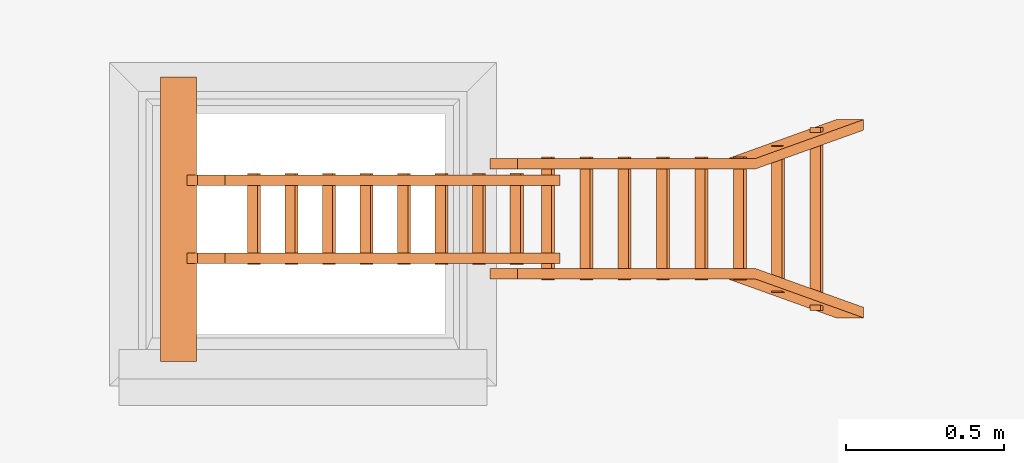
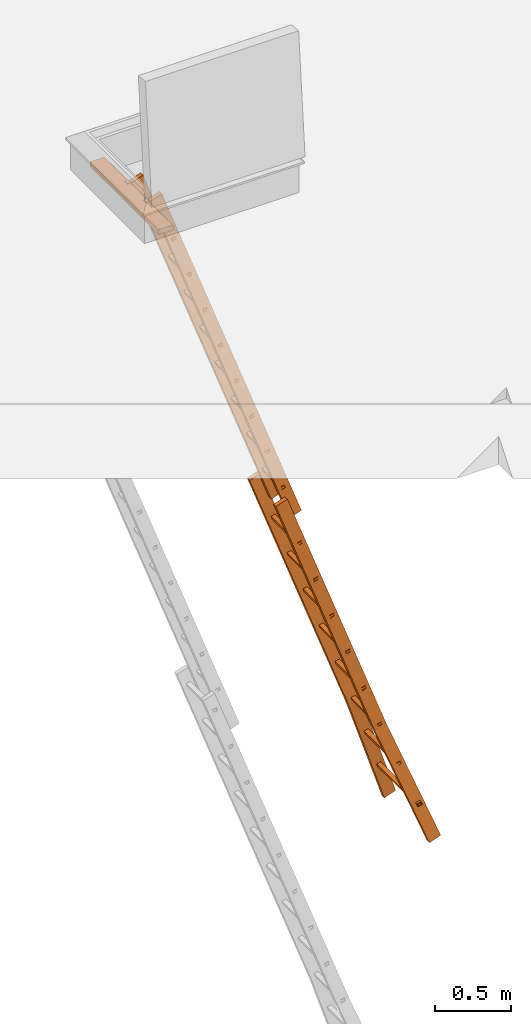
# One storey, part 12 of 28: 1 proxy, 2 openings.
"""IFC2X3 building model written with IfcOpenShell, lengths in millimetres."""

from ifc_helpers import new_model, entity, si_unit, converted_unit, derived_unit, direction, frame, frame_2d, origin, origin_2d_with_axis, place, context, subcontext, project, spatial, polyline, circle_curve, parameter, trimmed, segment, composite_curve, rectangle, outline, extrude, source, transform, mapped, type_object, type_shapes, element, save


model = new_model("IFC2X3")

# Units and contexts
model_context = context("Model", 3, precision=0.01, world=origin(), true_north=direction((6.12303176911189e-17, 1.0)))
body_context = subcontext(model_context, "Body", "Model", "MODEL_VIEW")
ifc_project = project(units=[si_unit("LENGTHUNIT", "METRE", prefix="MILLI"), si_unit("AREAUNIT", "SQUARE_METRE"), si_unit("VOLUMEUNIT", "CUBIC_METRE"), converted_unit("PLANEANGLEUNIT", "DEGREE", entity("IfcRatioMeasure", 0.0174532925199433), si_unit("PLANEANGLEUNIT", "RADIAN"), dimensions=[0, 0, 0, 0, 0, 0, 0]), si_unit("MASSUNIT", "GRAM", prefix="KILO"), derived_unit("MASSDENSITYUNIT", [(si_unit("MASSUNIT", "GRAM", prefix="KILO"), 1), (si_unit("LENGTHUNIT", "METRE"), -3)]), si_unit("TIMEUNIT", "SECOND"), si_unit("FREQUENCYUNIT", "HERTZ"), si_unit("THERMODYNAMICTEMPERATUREUNIT", "DEGREE_CELSIUS"), derived_unit("THERMALTRANSMITTANCEUNIT", [(si_unit("MASSUNIT", "GRAM", prefix="KILO"), 1), (si_unit("THERMODYNAMICTEMPERATUREUNIT", "KELVIN"), -1), (si_unit("TIMEUNIT", "SECOND"), -3)]), derived_unit("VOLUMETRICFLOWRATEUNIT", [(si_unit("LENGTHUNIT", "METRE"), 3), (si_unit("TIMEUNIT", "SECOND"), -1)]), si_unit("ELECTRICCURRENTUNIT", "AMPERE"), si_unit("ELECTRICVOLTAGEUNIT", "VOLT"), si_unit("POWERUNIT", "WATT"), si_unit("FORCEUNIT", "NEWTON", prefix="KILO"), si_unit("ILLUMINANCEUNIT", "LUX"), si_unit("LUMINOUSFLUXUNIT", "LUMEN"), si_unit("LUMINOUSINTENSITYUNIT", "CANDELA"), derived_unit("USERDEFINED", [(si_unit("MASSUNIT", "GRAM", prefix="KILO"), -1), (si_unit("LENGTHUNIT", "METRE"), -2), (si_unit("TIMEUNIT", "SECOND"), 3), (si_unit("LUMINOUSFLUXUNIT", "LUMEN"), 1)]), derived_unit("LINEARVELOCITYUNIT", [(si_unit("LENGTHUNIT", "METRE"), 1), (si_unit("TIMEUNIT", "SECOND"), -1)]), si_unit("PRESSUREUNIT", "PASCAL"), derived_unit("USERDEFINED", [(si_unit("LENGTHUNIT", "METRE"), -2), (si_unit("MASSUNIT", "GRAM", prefix="KILO"), 1), (si_unit("TIMEUNIT", "SECOND"), -2)])], contexts=[model_context])

# Site, building, storey
site_placement = place(None, origin())
site = spatial("IfcSite", under=ifc_project, at=site_placement, Name="Default", CompositionType="ELEMENT")
building_placement = place(site_placement, origin())
building = spatial("IfcBuilding", under=site, at=building_placement, CompositionType="ELEMENT")
storey_placement = place(building_placement, frame((0.0, 0.0, 4000.0)))
storey = spatial("IfcBuildingStorey", under=building, at=storey_placement, Name="Level 2", CompositionType="ELEMENT", Elevation=4000.0)

# Proxy, openings
building_element_proxy_type = type_object("IfcBuildingElementProxyType", Name="9_Topaccess_Trap_2delige1", PredefinedType="NOTDEFINED")
shared_shape = source(origin(), body_context, "Body", "SweptSolid", [
    extrude(outline(composite_curve([segment(polyline([(-20.0, -72.7589570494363), (20.0, -72.7589570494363)]), True, "CONTINUOUS"), segment(polyline([(20.0, -72.7589570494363), (20.0, 31.9980683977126)]), True, "CONTINUOUS"), segment(trimmed(circle_curve(frame_2d((10.2609571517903, 30.9957536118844), x_axis=(0.939692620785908, -0.342020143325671)), 9.79048469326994), [parameter(25.876031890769)], [parameter(105.876031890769)], True, "PARAMETER"), True, "CONTINUOUS"), segment(polyline([(10.9650368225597, 40.760888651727), (-10.9650368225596, 40.760888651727)]), True, "CONTINUOUS"), segment(trimmed(circle_curve(frame_2d((-10.2609571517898, 30.9957536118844), x_axis=(0.939692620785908, -0.342020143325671)), 9.79048469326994), [parameter(114.123968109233)], [parameter(194.123968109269)], True, "PARAMETER"), True, "CONTINUOUS"), segment(polyline([(-20.0, 31.9980683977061), (-20.0, -72.7589570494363)]), True, "CONTINUOUS")], self_intersect=False)), frame((-484.291584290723, -2.37763803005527, 9.64187826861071), z_axis=(1.0, 0.0, 0.0), x_axis=(0.0, 0.939692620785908, 0.34202014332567)), (0.0, 0.0, 1.0), 900.0),
    extrude(outline(composite_curve([segment(polyline([(-21.0941155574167, -85.4663572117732), (-18.0941155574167, -85.4663572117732)]), True, "CONTINUOUS"), segment(polyline([(-18.0941155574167, -85.4663572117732), (-18.0941155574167, 34.533772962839)]), True, "CONTINUOUS"), segment(trimmed(circle_curve(frame_2d((0.281515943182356, 34.5337729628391), x_axis=(0.0, 1.0)), 18.3756315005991), [parameter(284.219953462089)], [parameter(90.0000000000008)], True, "PARAMETER"), False, "CONTINUOUS"), segment(polyline([(18.0941155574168, 39.047654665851), (18.0941155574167, 11.7050015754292)]), True, "CONTINUOUS"), segment(polyline([(18.0941155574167, 11.7050015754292), (21.0941155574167, 11.7050015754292)]), True, "CONTINUOUS"), segment(polyline([(21.0941155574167, 11.7050015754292), (21.0941155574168, 39.4075106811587)]), True, "CONTINUOUS"), segment(trimmed(circle_curve(frame_2d((0.281515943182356, 34.5337729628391), x_axis=(0.0, 1.0)), 21.3756315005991), [parameter(283.179609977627)], [parameter(89.9999999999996)], True, "PARAMETER"), True, "CONTINUOUS"), segment(polyline([(-21.0941155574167, 34.5337729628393), (-21.0941155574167, -85.4663572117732)]), True, "CONTINUOUS")], self_intersect=False)), frame((72.0, -40.2373925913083, 36.9030783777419), z_axis=(1.0, 0.0, 0.0), x_axis=(0.0, 0.0, -1.0)), (0.0, 0.0, 1.0), 33.0),
    extrude(outline(composite_curve([segment(polyline([(-34.5337729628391, -21.0941155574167), (85.4663572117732, -21.0941155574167)]), True, "CONTINUOUS"), segment(polyline([(85.4663572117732, -21.0941155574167), (85.4663572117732, -18.0941155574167)]), True, "CONTINUOUS"), segment(polyline([(85.4663572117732, -18.0941155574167), (-34.5337729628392, -18.0941155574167)]), True, "CONTINUOUS"), segment(trimmed(circle_curve(frame_2d((-34.5337729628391, 0.281515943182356), x_axis=(-1.0, 0.0)), 18.3756315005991), [parameter(284.219953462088)], [parameter(90.0)], True, "PARAMETER"), False, "CONTINUOUS"), segment(polyline([(-39.047654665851, 18.0941155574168), (-11.7050015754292, 18.0941155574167)]), True, "CONTINUOUS"), segment(polyline([(-11.7050015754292, 18.0941155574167), (-11.7050015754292, 21.0941155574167)]), True, "CONTINUOUS"), segment(polyline([(-11.7050015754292, 21.0941155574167), (-39.407510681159, 21.0941155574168)]), True, "CONTINUOUS"), segment(trimmed(circle_curve(frame_2d((-34.5337729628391, 0.281515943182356), x_axis=(-1.0, 0.0)), 21.3756315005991), [parameter(283.179609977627)], [parameter(89.9999999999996)], True, "PARAMETER"), True, "CONTINUOUS")], self_intersect=False)), frame((-175.0, -40.2373925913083, 36.9030783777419), z_axis=(1.0, 0.0, 0.0), x_axis=(0.0, -1.0, 0.0)), (0.0, 0.0, 1.0), 33.0000000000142),
    extrude(rectangle(XDim=33.0000000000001, YDim=3099.99999999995, at=frame_2d((-3.30000000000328, 283.551511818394), x_axis=(1.0, 0.0))), frame((85.2, -1266.44848818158, 58.0), z_axis=(0.0, 0.0, 1.0), x_axis=(-1.0, 0.0, 0.0)), (0.0, 0.0, 1.0), 92.0),
    extrude(rectangle(XDim=3099.99999999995, YDim=33.0000000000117, at=frame_2d((-283.551511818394, 3.30000000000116), x_axis=(1.0, 0.0))), frame((-155.19999999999, -1266.44848818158, 58.0), z_axis=(0.0, 0.0, 1.0), x_axis=(0.0, 1.0, 0.0)), (0.0, 0.0, 1.0), 92.0),
    extrude(outline(polyline([(-11.5216143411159, -16.5000000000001), (13.8405381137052, -16.5000000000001), (13.8405381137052, 16.5), (-16.1594618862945, 16.5000000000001), (-11.5216143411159, -16.5000000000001)]), holes=[polyline([(8.84053811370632, -11.5000000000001), (-7.1751806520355, -11.5000000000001), (-10.4076198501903, 11.5000000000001), (8.84053811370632, 11.5), (8.84053811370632, -11.5000000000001)])]), frame((-227.077291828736, -3293.01909964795, 39.0843884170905), z_axis=(1.0, 0.0, 0.0), x_axis=(0.0, -1.0, 0.0)), (0.0, 0.0, 1.0), 389.077291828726),
    extrude(outline(polyline([(-11.5216143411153, -16.5000000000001), (13.8405381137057, -16.5000000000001), (13.8405381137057, 16.5), (-16.159461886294, 16.5000000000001), (-11.5216143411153, -16.5000000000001)]), holes=[polyline([(8.84053811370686, -11.5000000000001), (-7.17518065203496, -11.5000000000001), (-10.4076198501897, 11.5000000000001), (8.84053811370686, 11.5), (8.84053811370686, -11.5000000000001)])]), frame((-227.077291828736, -3648.01909964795, 39.0843884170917), z_axis=(1.0, 0.0, 0.0), x_axis=(0.0, -1.0, 0.0)), (0.0, 0.0, 1.0), 389.077291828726),
    extrude(outline(polyline([(-11.5216143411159, -16.5000000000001), (13.8405381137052, -16.5000000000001), (13.8405381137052, 16.5), (-16.1594618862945, 16.5000000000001), (-11.5216143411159, -16.5000000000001)]), holes=[polyline([(8.84053811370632, -11.5000000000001), (-7.1751806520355, -11.5000000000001), (-10.4076198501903, 11.5000000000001), (8.84053811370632, 11.5), (8.84053811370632, -11.5000000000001)])]), frame((-227.077291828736, -4003.01909964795, 39.0843884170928), z_axis=(1.0, 0.0, 0.0), x_axis=(0.0, -1.0, 0.0)), (0.0, 0.0, 1.0), 389.077291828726),
    extrude(outline(polyline([(-11.5216143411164, -16.5000000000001), (13.8405381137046, -16.5000000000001), (13.8405381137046, 16.5), (-16.159461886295, 16.5000000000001), (-11.5216143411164, -16.5000000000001)]), holes=[polyline([(8.84053811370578, -11.5000000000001), (-7.17518065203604, -11.5000000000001), (-10.4076198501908, 11.5000000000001), (8.84053811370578, 11.5), (8.84053811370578, -11.5000000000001)])]), frame((-227.077291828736, -4358.01909964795, 39.0843884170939), z_axis=(1.0, 0.0, 0.0), x_axis=(0.0, -1.0, 0.0)), (0.0, 0.0, 1.0), 389.077291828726),
    extrude(outline(polyline([(-11.5216143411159, -16.5000000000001), (13.8405381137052, -16.5000000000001), (13.8405381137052, 16.5), (-16.1594618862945, 16.5000000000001), (-11.5216143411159, -16.5000000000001)]), holes=[polyline([(8.84053811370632, -11.5000000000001), (-7.1751806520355, -11.5000000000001), (-10.4076198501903, 11.5000000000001), (8.84053811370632, 11.5), (8.84053811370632, -11.5000000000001)])]), frame((-227.077291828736, -4713.01909964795, 39.0843884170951), z_axis=(1.0, 0.0, 0.0), x_axis=(0.0, -1.0, 0.0)), (0.0, 0.0, 1.0), 389.077291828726),
    extrude(outline(polyline([(-11.5216143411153, -16.5000000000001), (13.8405381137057, -16.5000000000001), (13.8405381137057, 16.5), (-16.159461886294, 16.5000000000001), (-11.5216143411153, -16.5000000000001)]), holes=[polyline([(8.84053811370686, -11.5000000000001), (-7.17518065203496, -11.5000000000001), (-10.4076198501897, 11.5000000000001), (8.84053811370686, 11.5), (8.84053811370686, -11.5000000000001)])]), frame((-227.077291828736, -5068.01909964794, 39.0843884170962), z_axis=(1.0, 0.0, 0.0), x_axis=(0.0, -1.0, 0.0)), (0.0, 0.0, 1.0), 389.077291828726),
    extrude(outline(polyline([(-11.5216143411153, -16.5000000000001), (13.8405381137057, -16.5000000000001), (13.8405381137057, 16.5), (-16.159461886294, 16.5000000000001), (-11.5216143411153, -16.5000000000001)]), holes=[polyline([(8.84053811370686, -11.5000000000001), (-7.17518065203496, -11.5000000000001), (-10.4076198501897, 11.5000000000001), (8.84053811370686, 11.5), (8.84053811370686, -11.5000000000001)])]), frame((-266.000121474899, -5423.01909964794, 39.0843884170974), z_axis=(1.0, 0.0, 0.0), x_axis=(0.0, -1.0, 0.0)), (0.0, 0.0, 1.0), 465.000121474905),
    extrude(outline(polyline([(-11.5216143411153, -16.5000000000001), (13.8405381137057, -16.5000000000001), (13.8405381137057, 16.5), (-16.159461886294, 16.5000000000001), (-11.5216143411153, -16.5000000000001)]), holes=[polyline([(8.84053811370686, -11.5000000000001), (-7.17518065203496, -11.5000000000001), (-10.4076198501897, 11.5000000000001), (8.84053811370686, 11.5), (8.84053811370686, -11.5000000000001)])]), frame((-323.951711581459, -5778.01909964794, 39.0843884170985), z_axis=(1.0, 0.0, 0.0), x_axis=(0.0, -1.0, 0.0)), (0.0, 0.0, 1.0), 580.345535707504),
    extrude(outline(polyline([(388.026880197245, -105.667736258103), (1398.54073073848, -105.667736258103), (1402.59262124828, -72.6677362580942), (392.048568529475, -72.9137132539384), (-1788.59355619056, 194.835472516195), (-1792.61524452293, 162.081449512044), (388.026880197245, -105.667736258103)])), frame((181.59152386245, -4696.74475844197, -12.0), z_axis=(0.0, 0.0, 1.0), x_axis=(0.121869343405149, -0.992546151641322, 0.0)), (0.0, 0.0, 1.0), 92.0),
    extrude(outline(polyline([(390.379133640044, 72.7087324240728), (1402.92650822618, 72.7087324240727), (1398.87461771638, 105.708732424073), (388.360767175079, 105.708732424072), (-1792.28135754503, -162.040453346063), (-1788.25966921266, -194.794476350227), (390.379133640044, 72.7087324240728)])), frame((-247.591523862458, -4696.40836403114, -12.0), z_axis=(0.0, 0.0, 1.0), x_axis=(-0.121869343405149, -0.992546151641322, 0.0)), (0.0, 0.0, 1.0), 92.0),
    extrude(outline(polyline([(-11.5216143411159, -16.5), (13.8405381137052, -16.5), (13.8405381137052, 16.5), (-16.1594618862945, 16.5000000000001), (-11.5216143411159, -16.5)]), holes=[polyline([(8.84053811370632, -11.5), (-7.17518065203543, -11.5), (-10.4076198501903, 11.5), (8.84053811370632, 11.5), (8.84053811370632, -11.5)])]), frame((-178.583168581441, -401.863211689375, 101.084388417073), z_axis=(1.0, 0.0, 0.0), x_axis=(0.0, -1.0, 0.0)), (0.0, 0.0, 1.0), 288.583168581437),
    extrude(outline(polyline([(-11.5216143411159, -16.5), (13.8405381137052, -16.5), (13.8405381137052, 16.5), (-16.1594618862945, 16.5000000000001), (-11.5216143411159, -16.5)]), holes=[polyline([(8.84053811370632, -11.5), (-7.1751806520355, -11.5), (-10.4076198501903, 11.5000000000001), (8.84053811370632, 11.5), (8.84053811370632, -11.5)])]), frame((-178.583168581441, -749.363211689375, 101.084388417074), z_axis=(1.0, 0.0, 0.0), x_axis=(0.0, -1.0, 0.0)), (0.0, 0.0, 1.0), 288.583168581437),
    extrude(outline(polyline([(-11.5216143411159, -16.5), (13.8405381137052, -16.5), (13.8405381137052, 16.5), (-16.1594618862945, 16.5000000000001), (-11.5216143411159, -16.5)]), holes=[polyline([(8.84053811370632, -11.5), (-7.1751806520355, -11.5), (-10.4076198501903, 11.5), (8.84053811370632, 11.5), (8.84053811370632, -11.5)])]), frame((-178.583168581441, -1096.86321168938, 101.084388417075), z_axis=(1.0, 0.0, 0.0), x_axis=(0.0, -1.0, 0.0)), (0.0, 0.0, 1.0), 288.583168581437),
    extrude(outline(polyline([(-11.5216143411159, -16.5), (13.8405381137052, -16.5), (13.8405381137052, 16.5), (-16.1594618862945, 16.5000000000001), (-11.5216143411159, -16.5)]), holes=[polyline([(8.84053811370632, -11.5), (-7.1751806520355, -11.5), (-10.4076198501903, 11.5000000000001), (8.84053811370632, 11.5), (8.84053811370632, -11.5)])]), frame((-178.583168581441, -1444.36321168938, 101.084388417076), z_axis=(1.0, 0.0, 0.0), x_axis=(0.0, -1.0, 0.0)), (0.0, 0.0, 1.0), 288.583168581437),
    extrude(outline(polyline([(-11.5216143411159, -16.5), (13.8405381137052, -16.5), (13.8405381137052, 16.5), (-16.1594618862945, 16.5000000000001), (-11.5216143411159, -16.5)]), holes=[polyline([(8.84053811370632, -11.5), (-7.1751806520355, -11.5), (-10.4076198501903, 11.5000000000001), (8.84053811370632, 11.5), (8.84053811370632, -11.5)])]), frame((-178.583168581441, -1791.86321168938, 101.084388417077), z_axis=(1.0, 0.0, 0.0), x_axis=(0.0, -1.0, 0.0)), (0.0, 0.0, 1.0), 288.583168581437),
    extrude(outline(polyline([(-11.5216143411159, -16.5), (13.8405381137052, -16.5), (13.8405381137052, 16.5), (-16.1594618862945, 16.5000000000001), (-11.5216143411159, -16.5)]), holes=[polyline([(8.84053811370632, -11.5), (-7.1751806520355, -11.5), (-10.4076198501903, 11.5000000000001), (8.84053811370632, 11.5), (8.84053811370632, -11.5)])]), frame((-178.583168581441, -2139.36321168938, 101.084388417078), z_axis=(1.0, 0.0, 0.0), x_axis=(0.0, -1.0, 0.0)), (0.0, 0.0, 1.0), 288.583168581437),
    extrude(outline(polyline([(-11.5216143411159, -16.5), (13.8405381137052, -16.5), (13.8405381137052, 16.5), (-16.1594618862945, 16.5000000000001), (-11.5216143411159, -16.5)]), holes=[polyline([(8.84053811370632, -11.5), (-7.1751806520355, -11.5), (-10.4076198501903, 11.5), (8.84053811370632, 11.5), (8.84053811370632, -11.5)])]), frame((-178.583168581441, -2486.86321168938, 101.084388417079), z_axis=(1.0, 0.0, 0.0), x_axis=(0.0, -1.0, 0.0)), (0.0, 0.0, 1.0), 288.583168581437),
    extrude(outline(polyline([(-11.5216143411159, -16.5), (13.8405381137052, -16.5), (13.8405381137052, 16.5), (-16.1594618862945, 16.5000000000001), (-11.5216143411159, -16.5)]), holes=[polyline([(8.84053811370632, -11.5), (-7.1751806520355, -11.5), (-10.4076198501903, 11.5000000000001), (8.84053811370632, 11.5), (8.84053811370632, -11.5)])]), frame((-178.583168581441, -2834.36321168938, 101.08438841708), z_axis=(1.0, 0.0, 0.0), x_axis=(0.0, -1.0, 0.0)), (0.0, 0.0, 1.0), 288.583168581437),
])
type_shapes(building_element_proxy_type, [shared_shape])
proxy_placement = place(storey_placement, frame((12979.5049702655, 5823.7829161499, 411.357021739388), z_axis=(0.939692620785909, 0.0, 0.342020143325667), x_axis=(0.0, 1.0, 0.0)))
proxy = element("IfcBuildingElementProxy", 1, at=proxy_placement, inside=storey, type_object=building_element_proxy_type, Name="9_Topaccess_Trap_2delige1:9_Topaccess_Trap_2delige1", ObjectType="9_Topaccess_Trap_2delige1", context=body_context, shape_type="MappedRepresentation", body=[
    mapped(shared_shape, transform((0.0, 0.0, 0.0), scale=1.0)),
])
opening_1_placement = place(storey_placement, frame((12979.5049702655, 5823.7829161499, 4411.35702173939), z_axis=(0.321393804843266, 0.939692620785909, 0.116977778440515), x_axis=(-0.342020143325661, 0.0, 0.939692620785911)))
element("IfcOpeningElement", 2, at=opening_1_placement, cuts=proxy, Name="9_Topaccess_Trap_2delige1:9_Topaccess_Trap_2delige1:1", ObjectType="Opening", context=body_context, shape_type="SweptSolid", body=[
    extrude(rectangle(XDim=42.5298592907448, YDim=59.0000000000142, at=frame_2d((5.32907051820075e-15, 0.0), x_axis=(1.0, 0.0))), frame((16.836608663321, -3690.15737979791, -1511.77962294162), z_axis=(-0.93969262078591, -0.321393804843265, -0.116977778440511), x_axis=(-0.342020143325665, 0.883022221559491, 0.321393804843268)), (0.0, 0.0, 1.0), 40.0),
])
opening_2_placement = place(storey_placement, frame((12979.5049702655, 5823.7829161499, 4411.35702173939), z_axis=(0.321393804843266, 0.939692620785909, 0.116977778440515), x_axis=(-0.342020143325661, 0.0, 0.939692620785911)))
element("IfcOpeningElement", 3, at=opening_2_placement, cuts=proxy, Name="9_Topaccess_Trap_2delige1:9_Topaccess_Trap_2delige1:2", ObjectType="Opening", context=body_context, shape_type="SweptSolid", body=[
    extrude(rectangle(XDim=42.5298592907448, YDim=59.0000000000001, at=origin_2d_with_axis()), frame((16.8366086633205, -3774.63635519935, -1279.6755456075), z_axis=(-0.93969262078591, -0.321393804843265, -0.116977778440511), x_axis=(-0.342020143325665, 0.883022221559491, 0.321393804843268)), (0.0, 0.0, 1.0), 40.0),
])

save(model, "model.ifc")
